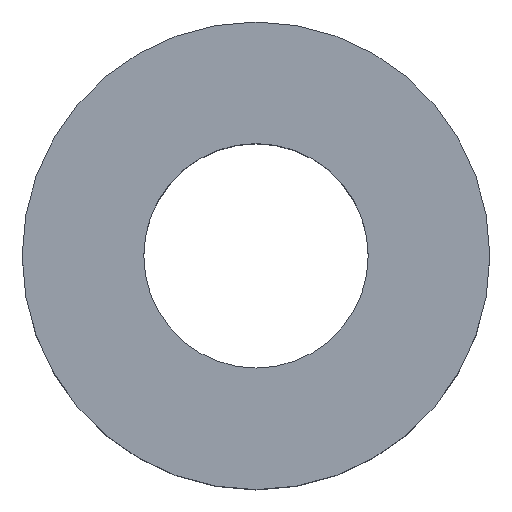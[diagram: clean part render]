
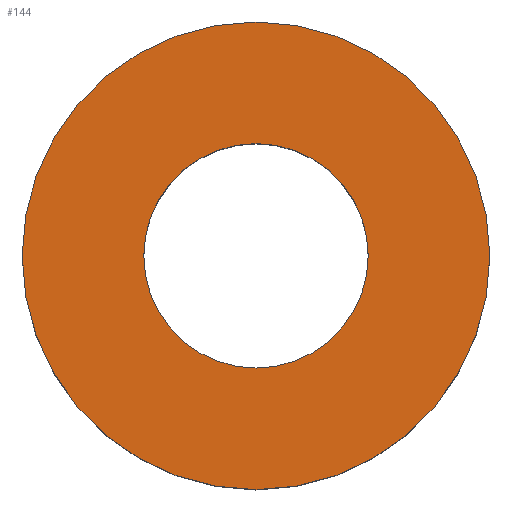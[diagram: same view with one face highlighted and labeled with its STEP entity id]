
A CAD part, top view. The second image highlights one B-rep face of the part: STEP entity #144.
In plain terms, the highlighted planar face has unit normal (0, 0, 1).
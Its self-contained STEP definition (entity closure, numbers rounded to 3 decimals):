
#24 = VERTEX_POINT('',#25);
#25 = CARTESIAN_POINT('',(25.,0.,20.));
#32 = CYLINDRICAL_SURFACE('',#33,25.);
#33 = AXIS2_PLACEMENT_3D('',#34,#35,#36);
#34 = CARTESIAN_POINT('',(0.,0.,0.));
#35 = DIRECTION('',(-0.,-0.,-1.));
#36 = DIRECTION('',(1.,0.,0.));
#51 = EDGE_CURVE('',#24,#24,#52,.T.);
#52 = SURFACE_CURVE('',#53,(#58,#65),.PCURVE_S1.);
#53 = CIRCLE('',#54,25.);
#54 = AXIS2_PLACEMENT_3D('',#55,#56,#57);
#55 = CARTESIAN_POINT('',(0.,0.,20.));
#56 = DIRECTION('',(0.,0.,1.));
#57 = DIRECTION('',(1.,0.,0.));
#58 = PCURVE('',#32,#59);
#59 = DEFINITIONAL_REPRESENTATION('',(#60),#64);
#60 = LINE('',#61,#62);
#61 = CARTESIAN_POINT('',(-0.,-20.));
#62 = VECTOR('',#63,1.);
#63 = DIRECTION('',(-1.,0.));
#64 = ( GEOMETRIC_REPRESENTATION_CONTEXT(2) 
PARAMETRIC_REPRESENTATION_CONTEXT() REPRESENTATION_CONTEXT('2D SPACE',''
  ) );
#65 = PCURVE('',#66,#71);
#66 = PLANE('',#67);
#67 = AXIS2_PLACEMENT_3D('',#68,#69,#70);
#68 = CARTESIAN_POINT('',(0.,0.,20.));
#69 = DIRECTION('',(0.,0.,1.));
#70 = DIRECTION('',(1.,0.,-0.));
#71 = DEFINITIONAL_REPRESENTATION('',(#72),#76);
#72 = CIRCLE('',#73,25.);
#73 = AXIS2_PLACEMENT_2D('',#74,#75);
#74 = CARTESIAN_POINT('',(0.,0.));
#75 = DIRECTION('',(1.,0.));
#76 = ( GEOMETRIC_REPRESENTATION_CONTEXT(2) 
PARAMETRIC_REPRESENTATION_CONTEXT() REPRESENTATION_CONTEXT('2D SPACE',''
  ) );
#133 = CYLINDRICAL_SURFACE('',#134,12.);
#134 = AXIS2_PLACEMENT_3D('',#135,#136,#137);
#135 = CARTESIAN_POINT('',(0.,0.,20.));
#136 = DIRECTION('',(0.,0.,-1.));
#137 = DIRECTION('',(-1.,0.,0.));
#144 = ADVANCED_FACE('',(#145,#148),#66,.T.);
#145 = FACE_BOUND('',#146,.T.);
#146 = EDGE_LOOP('',(#147));
#147 = ORIENTED_EDGE('',*,*,#51,.T.);
#148 = FACE_BOUND('',#149,.T.);
#149 = EDGE_LOOP('',(#150));
#150 = ORIENTED_EDGE('',*,*,#151,.T.);
#151 = EDGE_CURVE('',#152,#152,#154,.T.);
#152 = VERTEX_POINT('',#153);
#153 = CARTESIAN_POINT('',(-12.,0.,20.));
#154 = SURFACE_CURVE('',#155,(#160,#171),.PCURVE_S1.);
#155 = CIRCLE('',#156,12.);
#156 = AXIS2_PLACEMENT_3D('',#157,#158,#159);
#157 = CARTESIAN_POINT('',(0.,0.,20.));
#158 = DIRECTION('',(0.,0.,-1.));
#159 = DIRECTION('',(-1.,0.,0.));
#160 = PCURVE('',#66,#161);
#161 = DEFINITIONAL_REPRESENTATION('',(#162),#170);
#162 = ( BOUNDED_CURVE() B_SPLINE_CURVE(2,(#163,#164,#165,#166,#167,#168
,#169),.UNSPECIFIED.,.T.,.F.) B_SPLINE_CURVE_WITH_KNOTS((1,2,2,2,2,1),(
    -2.094,0.,2.094,4.189,6.283,
8.378),.UNSPECIFIED.) CURVE() GEOMETRIC_REPRESENTATION_ITEM() 
RATIONAL_B_SPLINE_CURVE((1.,0.5,1.,0.5,1.,0.5,1.)) REPRESENTATION_ITEM(
  '') );
#163 = CARTESIAN_POINT('',(-12.,0.));
#164 = CARTESIAN_POINT('',(-12.,20.785));
#165 = CARTESIAN_POINT('',(6.,10.392));
#166 = CARTESIAN_POINT('',(24.,0.));
#167 = CARTESIAN_POINT('',(6.,-10.392));
#168 = CARTESIAN_POINT('',(-12.,-20.785));
#169 = CARTESIAN_POINT('',(-12.,0.));
#170 = ( GEOMETRIC_REPRESENTATION_CONTEXT(2) 
PARAMETRIC_REPRESENTATION_CONTEXT() REPRESENTATION_CONTEXT('2D SPACE',''
  ) );
#171 = PCURVE('',#133,#172);
#172 = DEFINITIONAL_REPRESENTATION('',(#173),#177);
#173 = LINE('',#174,#175);
#174 = CARTESIAN_POINT('',(0.,0.));
#175 = VECTOR('',#176,1.);
#176 = DIRECTION('',(1.,0.));
#177 = ( GEOMETRIC_REPRESENTATION_CONTEXT(2) 
PARAMETRIC_REPRESENTATION_CONTEXT() REPRESENTATION_CONTEXT('2D SPACE',''
  ) );
